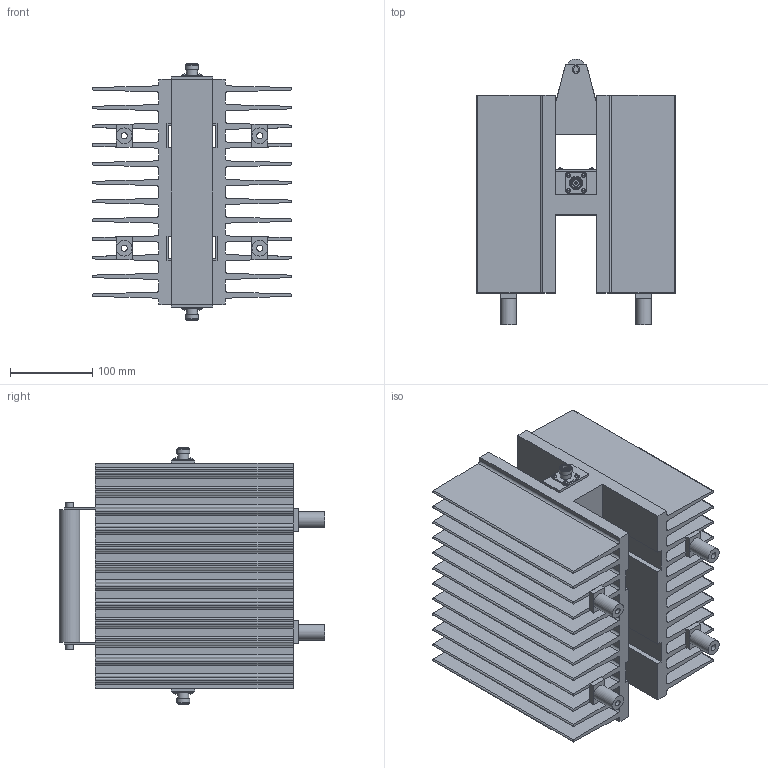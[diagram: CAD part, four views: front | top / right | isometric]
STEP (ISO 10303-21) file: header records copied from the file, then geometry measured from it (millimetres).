
FILE_DESCRIPTION(/* description */ ('Unknown'),/* implementation_level */ '2;1');
FILE_NAME(/* name */ '1000-A-FFN Rev B STEP',/* time_stamp */ '2021-02-02T11:02:02-05:00',/* author */ ('Unknown'),/* organization */ ('Unknown'),/* preprocessor_version */ 'ST-DEVELOPER v16.7',/* originating_system */ 'Solid Edge',/* authorisation */ 'Unknown');
FILE_SCHEMA (('AUTOMOTIVE_DESIGN {1 0 10303 214 3 1 1}'));
Length unit declared in the file: millimetre
Products named in the file (1): 1000-A-FFN
Bounding box: 243.08 x 323.85 x 312.42 mm (x, y, z)
Volume: 5276899.3 mm3; surface area: 1287800.5 mm2
Topology: 1 solids, 1 shells, 490 faces, 1345 edges, 874 vertices
Faces by surface type: plane 351, cylinder 115, sphere 16, torus 4, cone 4
Full cylindrical faces by diameter (mm): 7.62 x4, 8.128 x2, 9.525 x2, 13.462 x4, 15.875 x2, 19.05 x4, 25.4 x1
Entity records: 18543 total; most frequent: DIRECTION 2642, CARTESIAN_POINT 2607, ORIENTED_EDGE 2544, EDGE_CURVE 1272, LINE 884, VECTOR 884, AXIS2_PLACEMENT_3D 879, VERTEX_POINT 844
